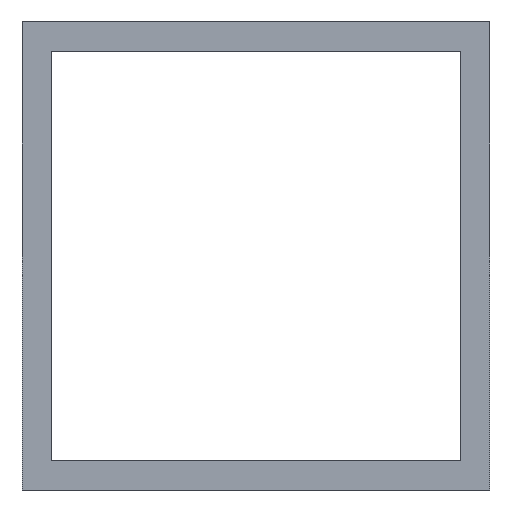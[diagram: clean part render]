
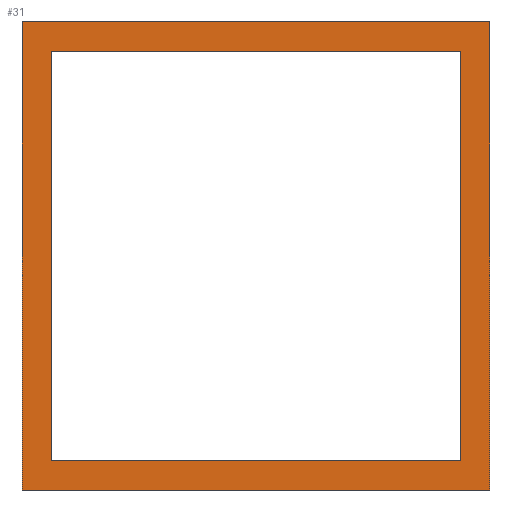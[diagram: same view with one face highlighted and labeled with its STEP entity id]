
A CAD part, left-side view. The second image highlights one B-rep face of the part: STEP entity #31.
In plain terms, the highlighted planar face has unit normal (-1, 0, 0).
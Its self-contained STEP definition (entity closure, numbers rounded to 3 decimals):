
#31=ADVANCED_FACE('',(#67,#49),#193,.T.);
#49=FACE_OUTER_BOUND('',#74,.F.);
#67=FACE_BOUND('',#73,.F.);
#73=EDGE_LOOP('',(#97,#98,#99,#100));
#74=EDGE_LOOP('',(#101,#102,#103,#104));
#97=ORIENTED_EDGE('',*,*,#248,.T.);
#98=ORIENTED_EDGE('',*,*,#249,.T.);
#99=ORIENTED_EDGE('',*,*,#250,.T.);
#100=ORIENTED_EDGE('',*,*,#247,.T.);
#101=ORIENTED_EDGE('',*,*,#251,.F.);
#102=ORIENTED_EDGE('',*,*,#252,.F.);
#103=ORIENTED_EDGE('',*,*,#253,.F.);
#104=ORIENTED_EDGE('',*,*,#254,.F.);
#193=PLANE('',#393);
#247=EDGE_CURVE('',#358,#357,#287,.T.);
#248=EDGE_CURVE('',#357,#356,#288,.T.);
#249=EDGE_CURVE('',#356,#355,#289,.T.);
#250=EDGE_CURVE('',#355,#358,#290,.T.);
#251=EDGE_CURVE('',#354,#353,#291,.T.);
#252=EDGE_CURVE('',#352,#354,#292,.T.);
#253=EDGE_CURVE('',#351,#352,#293,.T.);
#254=EDGE_CURVE('',#353,#351,#294,.T.);
#287=LINE('',#565,#327);
#288=LINE('',#566,#328);
#289=LINE('',#567,#329);
#290=LINE('',#568,#330);
#291=LINE('',#569,#331);
#292=LINE('',#570,#332);
#293=LINE('',#571,#333);
#294=LINE('',#572,#334);
#327=VECTOR('',#446,22.225);
#328=VECTOR('',#447,22.225);
#329=VECTOR('',#448,22.225);
#330=VECTOR('',#449,22.225);
#331=VECTOR('',#450,25.4);
#332=VECTOR('',#451,25.4);
#333=VECTOR('',#452,25.4);
#334=VECTOR('',#453,25.4);
#351=VERTEX_POINT('',#509);
#352=VERTEX_POINT('',#510);
#353=VERTEX_POINT('',#511);
#354=VERTEX_POINT('',#512);
#355=VERTEX_POINT('',#513);
#356=VERTEX_POINT('',#514);
#357=VERTEX_POINT('',#515);
#358=VERTEX_POINT('',#516);
#393=AXIS2_PLACEMENT_3D('',#589,#470,#471);
#446=DIRECTION('',(0.,0.,1.));
#447=DIRECTION('',(0.,1.,0.));
#448=DIRECTION('',(0.,0.,-1.));
#449=DIRECTION('',(0.,-1.,0.));
#450=DIRECTION('',(0.,-1.,0.));
#451=DIRECTION('',(0.,0.,-1.));
#452=DIRECTION('',(0.,1.,0.));
#453=DIRECTION('',(0.,0.,1.));
#470=DIRECTION('',(-1.,0.,0.));
#471=DIRECTION('',(0.,0.,-1.));
#509=CARTESIAN_POINT('',(1121.786,-2819.741,6774.345));
#510=CARTESIAN_POINT('',(1121.786,-2794.341,6774.345));
#511=CARTESIAN_POINT('',(1121.786,-2819.741,6748.945));
#512=CARTESIAN_POINT('',(1121.786,-2794.341,6748.945));
#513=CARTESIAN_POINT('',(1121.786,-2795.928,6750.533));
#514=CARTESIAN_POINT('',(1121.786,-2795.928,6772.758));
#515=CARTESIAN_POINT('',(1121.786,-2818.153,6772.758));
#516=CARTESIAN_POINT('',(1121.786,-2818.153,6750.533));
#565=CARTESIAN_POINT('',(1121.786,-2818.153,6750.533));
#566=CARTESIAN_POINT('',(1121.786,-2818.153,6772.758));
#567=CARTESIAN_POINT('',(1121.786,-2795.928,6772.758));
#568=CARTESIAN_POINT('',(1121.786,-2795.928,6750.533));
#569=CARTESIAN_POINT('',(1121.786,-2794.341,6748.945));
#570=CARTESIAN_POINT('',(1121.786,-2794.341,6774.345));
#571=CARTESIAN_POINT('',(1121.786,-2819.741,6774.345));
#572=CARTESIAN_POINT('',(1121.786,-2819.741,6748.945));
#589=CARTESIAN_POINT('',(1121.786,-2794.087,6774.599));
